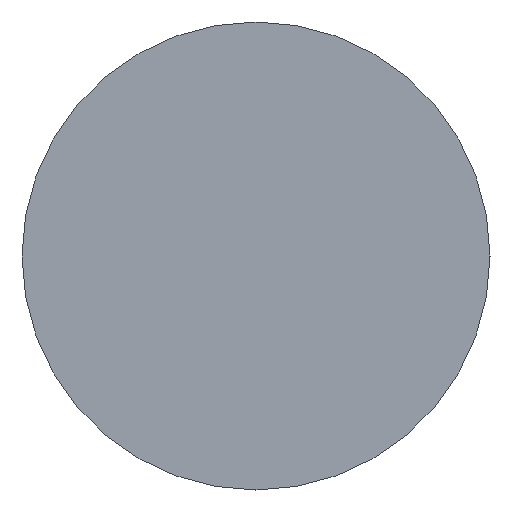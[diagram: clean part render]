
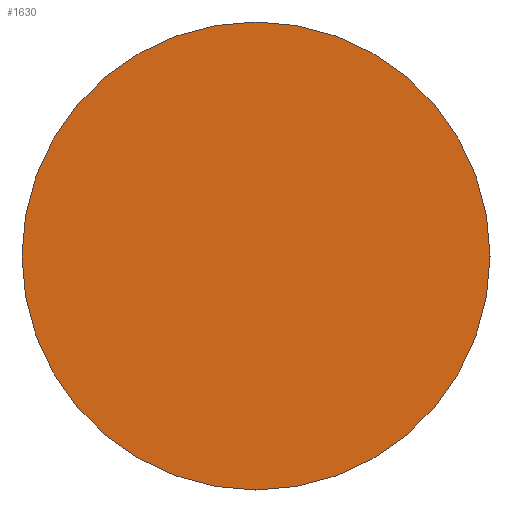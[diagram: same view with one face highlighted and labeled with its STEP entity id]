
A CAD part, front view. The second image highlights one B-rep face of the part: STEP entity #1630.
In plain terms, the highlighted planar face has unit normal (0, -1, 0).
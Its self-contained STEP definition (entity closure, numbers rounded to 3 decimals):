
#273 = AXIS2_PLACEMENT_3D ( 'NONE', #3804, #2575, #698 ) ;
#403 = CIRCLE ( 'NONE', #538, 34. ) ;
#538 = AXIS2_PLACEMENT_3D ( 'NONE', #3638, #3417, #3056 ) ;
#559 = EDGE_CURVE ( 'NONE', #4014, #921, #403, .T. ) ;
#698 = DIRECTION ( 'NONE',  ( 1., 0., 0. ) ) ;
#702 = EDGE_CURVE ( 'NONE', #921, #4014, #1264, .T. ) ;
#773 = FACE_OUTER_BOUND ( 'NONE', #1128, .T. ) ;
#921 = VERTEX_POINT ( 'NONE', #3944 ) ;
#1041 = CARTESIAN_POINT ( 'NONE',  ( 34., -25., 0. ) ) ;
#1086 = DIRECTION ( 'NONE',  ( 1., 0., 0. ) ) ;
#1128 = EDGE_LOOP ( 'NONE', ( #2237, #2071 ) ) ;
#1264 = CIRCLE ( 'NONE', #273, 34. ) ;
#1630 = ADVANCED_FACE ( 'NONE', ( #773 ), #2570, .T. ) ;
#1861 = CARTESIAN_POINT ( 'NONE',  ( -34., -25., 0. ) ) ;
#1916 = AXIS2_PLACEMENT_3D ( 'NONE', #1041, #3843, #1086 ) ;
#2071 = ORIENTED_EDGE ( 'NONE', *, *, #559, .T. ) ;
#2237 = ORIENTED_EDGE ( 'NONE', *, *, #702, .T. ) ;
#2570 = PLANE ( 'NONE',  #1916 ) ;
#2575 = DIRECTION ( 'NONE',  ( 0., -1., 0. ) ) ;
#3056 = DIRECTION ( 'NONE',  ( 1., 0., 0. ) ) ;
#3417 = DIRECTION ( 'NONE',  ( 0., -1., 0. ) ) ;
#3638 = CARTESIAN_POINT ( 'NONE',  ( 0., -25., 0. ) ) ;
#3804 = CARTESIAN_POINT ( 'NONE',  ( 0., -25., 0. ) ) ;
#3843 = DIRECTION ( 'NONE',  ( 0., -1., 0. ) ) ;
#3944 = CARTESIAN_POINT ( 'NONE',  ( 34., -25., 0. ) ) ;
#4014 = VERTEX_POINT ( 'NONE', #1861 ) ;
